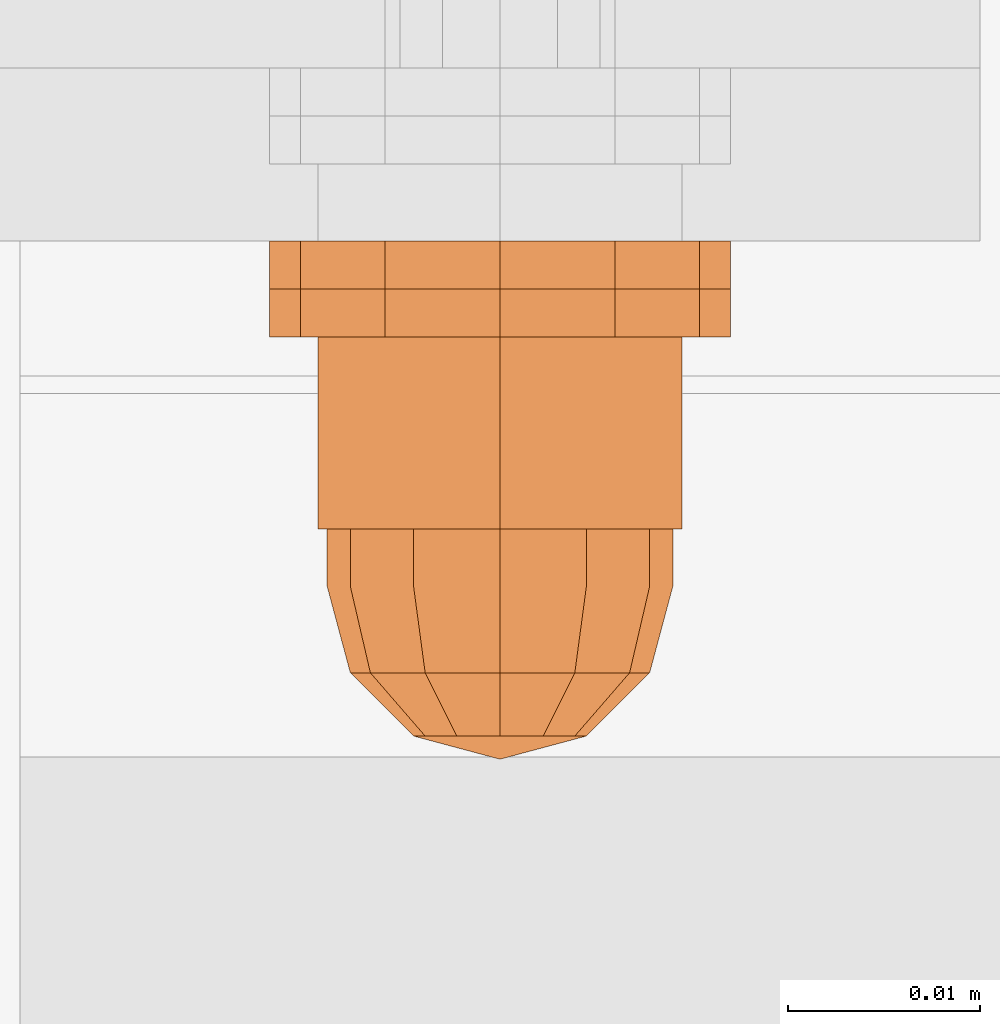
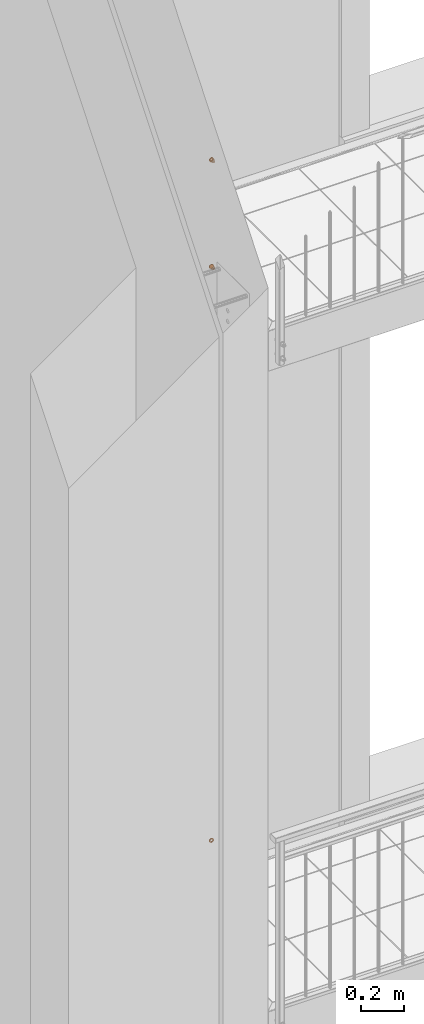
# One storey, part 142 of 162: 8 proxies.
"""IFC2X3 building model written with IfcOpenShell, lengths in millimetres."""

from ifc_helpers import new_model, entity, si_unit, converted_unit, origin_with_axes, place, context, project, spatial, faceted_brep, material, element, save


model = new_model("IFC2X3")

# Units and contexts
model_context = context("Model", 3, precision=1e-09, world=origin_with_axes())
ifc_project = project(units=[si_unit("LENGTHUNIT", "METRE", prefix="MILLI"), si_unit("AREAUNIT", "SQUARE_METRE"), si_unit("VOLUMEUNIT", "CUBIC_METRE"), converted_unit("PLANEANGLEUNIT", "DEGREE", entity("IfcPlaneAngleMeasure", 0.01745329), si_unit("PLANEANGLEUNIT", "RADIAN"), dimensions=[0, 0, 0, 0, 0, 0, 0])], contexts=[model_context])

# Site, building, storey
site_placement = place(None, origin_with_axes())
site = spatial("IfcSite", under=ifc_project, at=site_placement, Name="Hermannstra?e 1a, 60318 Frankfurt", CompositionType="ELEMENT")
building_placement = place(site_placement, origin_with_axes())
building = spatial("IfcBuilding", under=site, at=building_placement, Name="Struktur 1", CompositionType="ELEMENT")
storey_placement = place(building_placement, origin_with_axes())
storey = spatial("IfcBuildingStorey", under=building, at=storey_placement, Name="Default Storey", CompositionType="ELEMENT", Elevation=0.0)

# Proxies
ifc_material_1 = material(Name="Kunststoff")
proxy_1_placement = place(None, origin_with_axes())
element("IfcBuildingElementProxy", 1, at=proxy_1_placement, inside=storey, material=ifc_material_1, ObjectType="-", context=model_context, shape_type="Brep", body=[
    faceted_brep([(2938.700962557, 2708.108666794, 7899.0), (2938.700962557, 2710.608666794, 7899.0), (2940.308657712, 2710.608666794, 7905.0), (2940.308657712, 2708.108666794, 7905.0), (2934.308657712, 2710.608666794, 7894.607695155), (2928.308657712, 2710.608666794, 7893.0), (2922.308657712, 2710.608666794, 7894.607695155), (2917.916352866, 2710.608666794, 7899.0), (2916.308657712, 2710.608666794, 7905.0), (2917.916352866, 2710.608666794, 7911.0), (2922.308657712, 2710.608666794, 7915.392304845), (2928.308657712, 2710.608666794, 7917.0), (2934.308657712, 2710.608666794, 7915.392304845), (2938.700962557, 2710.608666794, 7911.0), (2931.558657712, 2710.608666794, 7899.370834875), (2933.937822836, 2710.608666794, 7901.75), (2934.808657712, 2710.608666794, 7905.0), (2933.937822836, 2710.608666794, 7908.25), (2931.558657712, 2710.608666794, 7910.629165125), (2928.308657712, 2710.608666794, 7911.5), (2925.058657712, 2710.608666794, 7910.629165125), (2922.679492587, 2710.608666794, 7908.25), (2921.808657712, 2710.608666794, 7905.0), (2922.679492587, 2710.608666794, 7901.75), (2925.058657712, 2710.608666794, 7899.370834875), (2928.308657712, 2710.608666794, 7898.5), (2934.808657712, 2708.108666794, 7905.0), (2933.937822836, 2708.108666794, 7901.75), (2934.308657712, 2708.108666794, 7894.607695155), (2938.700962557, 2708.108666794, 7911.0), (2934.308657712, 2708.108666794, 7915.392304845), (2928.308657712, 2708.108666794, 7917.0), (2922.308657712, 2708.108666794, 7915.392304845), (2917.916352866, 2708.108666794, 7911.0), (2916.308657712, 2708.108666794, 7905.0), (2917.916352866, 2708.108666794, 7899.0), (2922.308657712, 2708.108666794, 7894.607695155), (2928.308657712, 2708.108666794, 7893.0), (2931.558657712, 2708.108666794, 7899.370834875), (2928.308657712, 2708.108666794, 7898.5), (2925.058657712, 2708.108666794, 7899.370834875), (2922.679492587, 2708.108666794, 7901.75), (2921.808657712, 2708.108666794, 7905.0), (2922.679492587, 2708.108666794, 7908.25), (2925.058657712, 2708.108666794, 7910.629165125), (2928.308657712, 2708.108666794, 7911.5), (2931.558657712, 2708.108666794, 7910.629165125), (2933.937822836, 2708.108666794, 7908.25)], [[[0, 1, 2, 3]], [[1, 4, 5, 6, 7, 8, 9, 10, 11, 12, 13, 2], [14, 15, 16, 17, 18, 19, 20, 21, 22, 23, 24, 25]], [[26, 16, 15, 27]], [[28, 0, 3, 29, 30, 31, 32, 33, 34, 35, 36, 37], [26, 27, 38, 39, 40, 41, 42, 43, 44, 45, 46, 47]], [[1, 0, 28, 4]], [[16, 26, 47, 17]], [[3, 2, 13, 29]], [[27, 15, 14, 38]], [[4, 28, 37, 5]], [[17, 47, 46, 18]], [[29, 13, 12, 30]], [[38, 14, 25, 39]], [[18, 46, 45, 19]], [[5, 37, 36, 6]], [[39, 25, 24, 40]], [[30, 12, 11, 31]], [[19, 45, 44, 20]], [[6, 36, 35, 7]], [[40, 24, 23, 41]], [[31, 11, 10, 32]], [[20, 44, 43, 21]], [[7, 35, 34, 8]], [[41, 23, 22, 42]], [[32, 10, 9, 33]], [[21, 43, 42, 22]], [[8, 34, 33, 9]]]),
])
ifc_material_2 = material(Name="A4")
proxy_2_placement = place(None, origin_with_axes())
element("IfcBuildingElementProxy", 2, at=proxy_2_placement, inside=storey, material=ifc_material_2, ObjectType="-", context=model_context, shape_type="Brep", body=[
    faceted_brep([(2917.916352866, 2705.608666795, 7899.0), (2917.916352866, 2708.108666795, 7899.0), (2922.308657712, 2708.108666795, 7894.607695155), (2922.308657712, 2705.608666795, 7894.607695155), (2928.308657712, 2705.608666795, 7893.0), (2934.308657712, 2705.608666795, 7894.607695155), (2938.700962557, 2705.608666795, 7899.0), (2940.308657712, 2705.608666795, 7905.0), (2938.700962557, 2705.608666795, 7911.0), (2934.308657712, 2705.608666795, 7915.392304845), (2928.308657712, 2705.608666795, 7917.0), (2922.308657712, 2705.608666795, 7915.392304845), (2917.916352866, 2705.608666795, 7911.0), (2916.308657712, 2705.608666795, 7905.0), (2931.558657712, 2705.608666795, 7899.370834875), (2928.308657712, 2705.608666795, 7898.5), (2925.058657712, 2705.608666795, 7899.370834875), (2922.679492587, 2705.608666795, 7901.75), (2921.808657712, 2705.608666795, 7905.0), (2922.679492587, 2705.608666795, 7908.25), (2925.058657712, 2705.608666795, 7910.629165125), (2928.308657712, 2705.608666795, 7911.5), (2931.558657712, 2705.608666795, 7910.629165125), (2933.937822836, 2705.608666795, 7908.25), (2934.808657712, 2705.608666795, 7905.0), (2933.937822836, 2705.608666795, 7901.75), (2916.308657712, 2708.108666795, 7905.0), (2917.916352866, 2708.108666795, 7911.0), (2922.308657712, 2708.108666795, 7915.392304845), (2928.308657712, 2708.108666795, 7917.0), (2934.308657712, 2708.108666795, 7915.392304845), (2938.700962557, 2708.108666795, 7911.0), (2940.308657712, 2708.108666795, 7905.0), (2938.700962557, 2708.108666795, 7899.0), (2934.308657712, 2708.108666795, 7894.607695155), (2928.308657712, 2708.108666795, 7893.0), (2921.808657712, 2708.108666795, 7905.0), (2922.679492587, 2708.108666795, 7901.75), (2925.058657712, 2708.108666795, 7899.370834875), (2928.308657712, 2708.108666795, 7898.5), (2931.558657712, 2708.108666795, 7899.370834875), (2933.937822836, 2708.108666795, 7901.75), (2934.808657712, 2708.108666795, 7905.0), (2933.937822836, 2708.108666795, 7908.25), (2931.558657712, 2708.108666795, 7910.629165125), (2928.308657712, 2708.108666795, 7911.5), (2925.058657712, 2708.108666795, 7910.629165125), (2922.679492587, 2708.108666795, 7908.25)], [[[0, 1, 2, 3]], [[3, 4, 5, 6, 7, 8, 9, 10, 11, 12, 13, 0], [14, 15, 16, 17, 18, 19, 20, 21, 22, 23, 24, 25]], [[1, 26, 27, 28, 29, 30, 31, 32, 33, 34, 35, 2], [36, 37, 38, 39, 40, 41, 42, 43, 44, 45, 46, 47]], [[37, 17, 16, 38]], [[1, 0, 13, 26]], [[17, 37, 36, 18]], [[38, 16, 15, 39]], [[3, 2, 35, 4]], [[26, 13, 12, 27]], [[18, 36, 47, 19]], [[39, 15, 14, 40]], [[4, 35, 34, 5]], [[27, 12, 11, 28]], [[19, 47, 46, 20]], [[40, 14, 25, 41]], [[5, 34, 33, 6]], [[24, 42, 41, 25]], [[28, 11, 10, 29]], [[20, 46, 45, 21]], [[23, 43, 42, 24]], [[6, 33, 32, 7]], [[44, 22, 21, 45]], [[43, 23, 22, 44]], [[29, 10, 9, 30]], [[7, 32, 31, 8]], [[30, 9, 8, 31]]]),
])
proxy_3_placement = place(None, origin_with_axes())
element("IfcBuildingElementProxy", 3, at=proxy_3_placement, inside=storey, material=ifc_material_2, ObjectType="-", context=model_context, shape_type="Brep", body=[
    faceted_brep([(2934.308657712, 2705.608666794, 7905.0), (2934.308657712, 2695.608666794, 7905.0), (2933.504810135, 2695.608666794, 7908.0), (2933.504810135, 2705.608666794, 7908.0), (2931.308657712, 2695.608666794, 7910.196152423), (2931.308657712, 2705.608666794, 7910.196152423), (2933.504810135, 2705.608666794, 7902.0), (2933.504810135, 2695.608666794, 7902.0), (2937.788526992, 2705.608666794, 7899.526794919), (2928.308657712, 2705.608666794, 7894.053589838), (2918.828788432, 2705.608666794, 7899.526794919), (2918.828788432, 2705.608666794, 7910.473205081), (2928.308657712, 2705.608666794, 7915.946410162), (2937.788526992, 2705.608666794, 7910.473205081), (2931.308657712, 2705.608666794, 7899.803847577), (2928.308657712, 2705.608666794, 7911.0), (2925.308657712, 2705.608666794, 7910.196152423), (2923.112505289, 2705.608666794, 7908.0), (2922.308657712, 2705.608666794, 7905.0), (2923.112505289, 2705.608666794, 7902.0), (2925.308657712, 2705.608666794, 7899.803847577), (2928.308657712, 2705.608666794, 7899.0), (2928.308657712, 2695.608666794, 7894.053589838), (2937.788526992, 2695.608666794, 7899.526794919), (2937.788526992, 2695.608666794, 7910.473205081), (2928.308657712, 2695.608666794, 7915.946410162), (2918.828788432, 2695.608666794, 7910.473205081), (2918.828788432, 2695.608666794, 7899.526794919), (2931.308657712, 2695.608666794, 7899.803847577), (2928.308657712, 2695.608666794, 7899.0), (2925.308657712, 2695.608666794, 7899.803847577), (2923.112505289, 2695.608666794, 7902.0), (2922.308657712, 2695.608666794, 7905.0), (2923.112505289, 2695.608666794, 7908.0), (2925.308657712, 2695.608666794, 7910.196152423), (2928.308657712, 2695.608666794, 7911.0)], [[[0, 1, 2, 3]], [[3, 2, 4, 5]], [[1, 0, 6, 7]], [[8, 9, 10, 11, 12, 13], [14, 6, 0, 3, 5, 15, 16, 17, 18, 19, 20, 21]], [[22, 23, 24, 25, 26, 27], [1, 7, 28, 29, 30, 31, 32, 33, 34, 35, 4, 2]], [[7, 6, 14, 28]], [[24, 23, 8, 13]], [[5, 4, 35, 15]], [[13, 12, 25, 24]], [[28, 14, 21, 29]], [[23, 22, 9, 8]], [[15, 35, 34, 16]], [[12, 11, 26, 25]], [[29, 21, 20, 30]], [[22, 27, 10, 9]], [[16, 34, 33, 17]], [[27, 26, 11, 10]], [[30, 20, 19, 31]], [[17, 33, 32, 18]], [[31, 19, 18, 32]]]),
    faceted_brep([(2928.308657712, 2695.608666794, 7896.0), (2928.308657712, 2692.608666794, 7896.0), (2923.808657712, 2692.608666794, 7897.205771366), (2923.808657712, 2695.608666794, 7897.205771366), (2932.808657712, 2695.608666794, 7897.205771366), (2932.808657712, 2692.608666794, 7897.205771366), (2936.102886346, 2692.608666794, 7909.5), (2932.808657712, 2692.608666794, 7912.794228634), (2928.308657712, 2692.608666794, 7914.0), (2923.808657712, 2692.608666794, 7912.794228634), (2920.514429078, 2692.608666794, 7909.5), (2919.308657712, 2692.608666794, 7905.0), (2920.514429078, 2692.608666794, 7900.5), (2936.102886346, 2692.608666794, 7900.5), (2937.308657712, 2692.608666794, 7905.0), (2920.514429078, 2695.608666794, 7909.5), (2923.808657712, 2695.608666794, 7912.794228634), (2928.308657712, 2695.608666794, 7914.0), (2932.808657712, 2695.608666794, 7912.794228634), (2936.102886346, 2695.608666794, 7909.5), (2937.308657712, 2695.608666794, 7905.0), (2936.102886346, 2695.608666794, 7900.5), (2920.514429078, 2695.608666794, 7900.5), (2919.308657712, 2695.608666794, 7905.0)], [[[0, 1, 2, 3]], [[1, 0, 4, 5]], [[6, 7, 8, 9, 10, 11, 12, 2, 1, 5, 13, 14]], [[15, 16, 17, 18, 19, 20, 21, 4, 0, 3, 22, 23]], [[3, 2, 12, 22]], [[5, 4, 21, 13]], [[22, 12, 11, 23]], [[13, 21, 20, 14]], [[7, 18, 17, 8]], [[19, 6, 14, 20]], [[18, 7, 6, 19]], [[23, 11, 10, 15]], [[8, 17, 16, 9]], [[15, 10, 9, 16]]]),
    faceted_brep([(2936.102886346, 2692.608666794, 7900.5), (2935.058657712, 2688.108666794, 7901.102885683), (2932.205772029, 2688.108666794, 7898.25), (2932.808657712, 2692.608666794, 7897.205771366), (2920.514429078, 2692.608666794, 7909.5), (2923.808657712, 2692.608666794, 7912.794228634), (2928.308657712, 2692.608666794, 7914.0), (2932.808657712, 2692.608666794, 7912.794228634), (2936.102886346, 2692.608666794, 7909.5), (2937.308657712, 2692.608666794, 7905.0), (2928.308657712, 2692.608666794, 7896.0), (2923.808657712, 2692.608666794, 7897.205771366), (2920.514429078, 2692.608666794, 7900.5), (2919.308657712, 2692.608666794, 7905.0), (2928.308657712, 2688.108666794, 7897.205771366), (2936.102886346, 2688.108666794, 7905.0), (2932.808657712, 2684.81443816, 7905.0), (2932.205772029, 2684.81443816, 7902.75), (2924.411543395, 2688.108666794, 7898.25), (2930.558657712, 2684.81443816, 7901.102885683), (2935.058657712, 2688.108666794, 7908.897114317), (2932.205772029, 2684.81443816, 7907.25), (2928.308657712, 2684.81443816, 7900.5), (2928.308657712, 2683.608666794, 7905.0), (2932.205772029, 2688.108666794, 7911.75), (2930.558657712, 2684.81443816, 7908.897114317), (2928.308657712, 2688.108666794, 7912.794228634), (2921.558657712, 2688.108666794, 7901.102885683), (2926.058657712, 2684.81443816, 7901.102885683), (2928.308657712, 2684.81443816, 7909.5), (2924.411543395, 2688.108666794, 7911.75), (2926.058657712, 2684.81443816, 7908.897114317), (2920.514429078, 2688.108666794, 7905.0), (2924.411543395, 2684.81443816, 7902.75), (2921.558657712, 2688.108666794, 7908.897114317), (2924.411543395, 2684.81443816, 7907.25), (2923.808657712, 2684.81443816, 7905.0)], [[[0, 1, 2, 3]], [[4, 5, 6, 7, 8, 9, 0, 3, 10, 11, 12, 13]], [[3, 2, 14, 10]], [[15, 16, 17, 1]], [[1, 0, 9, 15]], [[10, 14, 18, 11]], [[1, 17, 19, 2]], [[16, 15, 20, 21]], [[2, 19, 22, 14]], [[23, 17, 16]], [[24, 25, 21, 20]], [[23, 16, 21]], [[24, 7, 6, 26]], [[20, 8, 7, 24]], [[15, 9, 8, 20]], [[11, 18, 27, 12]], [[14, 22, 28, 18]], [[23, 19, 17]], [[26, 29, 25, 24]], [[23, 21, 25]], [[23, 22, 19]], [[26, 6, 5, 30]], [[29, 26, 30, 31]], [[23, 25, 29]], [[12, 27, 32, 13]], [[18, 28, 33, 27]], [[23, 28, 22]], [[23, 29, 31]], [[23, 33, 28]], [[30, 5, 4, 34]], [[31, 30, 34, 35]], [[23, 31, 35]], [[13, 32, 34, 4]], [[27, 33, 36, 32]], [[23, 36, 33]], [[23, 35, 36]], [[35, 34, 32, 36]]]),
])
proxy_4_placement = place(None, origin_with_axes())
element("IfcBuildingElementProxy", 4, at=proxy_4_placement, inside=storey, material=ifc_material_2, ObjectType="-", context=model_context, shape_type="Brep", body=[
    faceted_brep([(2934.308657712, 2695.608666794, 7305.0), (2934.308657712, 2705.608666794, 7305.0), (2933.504810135, 2705.608666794, 7302.0), (2933.504810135, 2695.608666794, 7302.0), (2931.308657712, 2705.608666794, 7299.803847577), (2931.308657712, 2695.608666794, 7299.803847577), (2933.504810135, 2695.608666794, 7308.0), (2933.504810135, 2705.608666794, 7308.0), (2937.788526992, 2705.608666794, 7310.473205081), (2937.788526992, 2705.608666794, 7299.526794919), (2928.308657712, 2705.608666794, 7294.053589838), (2918.828788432, 2705.608666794, 7299.526794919), (2918.828788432, 2705.608666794, 7310.473205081), (2928.308657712, 2705.608666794, 7315.946410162), (2931.308657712, 2705.608666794, 7310.196152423), (2928.308657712, 2705.608666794, 7311.0), (2925.308657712, 2705.608666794, 7310.196152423), (2923.112505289, 2705.608666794, 7308.0), (2922.308657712, 2705.608666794, 7305.0), (2923.112505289, 2705.608666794, 7302.0), (2925.308657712, 2705.608666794, 7299.803847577), (2928.308657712, 2705.608666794, 7299.0), (2937.788526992, 2695.608666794, 7310.473205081), (2928.308657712, 2695.608666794, 7315.946410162), (2918.828788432, 2695.608666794, 7310.473205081), (2918.828788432, 2695.608666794, 7299.526794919), (2928.308657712, 2695.608666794, 7294.053589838), (2937.788526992, 2695.608666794, 7299.526794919), (2931.308657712, 2695.608666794, 7310.196152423), (2928.308657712, 2695.608666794, 7299.0), (2928.308657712, 2695.608666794, 7311.0), (2925.308657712, 2695.608666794, 7299.803847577), (2925.308657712, 2695.608666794, 7310.196152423), (2923.112505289, 2695.608666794, 7302.0), (2923.112505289, 2695.608666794, 7308.0), (2922.308657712, 2695.608666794, 7305.0)], [[[0, 1, 2, 3]], [[3, 2, 4, 5]], [[1, 0, 6, 7]], [[8, 9, 10, 11, 12, 13], [7, 14, 15, 16, 17, 18, 19, 20, 21, 4, 2, 1]], [[22, 23, 24, 25, 26, 27]], [[7, 6, 28, 14]], [[22, 27, 9, 8]], [[5, 4, 21, 29]], [[10, 9, 27, 26]], [[14, 28, 30, 15]], [[23, 22, 8, 13]], [[29, 21, 20, 31]], [[11, 10, 26, 25]], [[15, 30, 32, 16]], [[24, 23, 13, 12]], [[31, 20, 19, 33]], [[25, 24, 12, 11]], [[16, 32, 34, 17]], [[33, 19, 18, 35]], [[17, 34, 35, 18]]]),
    faceted_brep([(2928.308657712, 2692.608666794, 7314.0), (2928.308657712, 2695.608666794, 7314.0), (2923.808657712, 2695.608666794, 7312.794228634), (2923.808657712, 2692.608666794, 7312.794228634), (2932.808657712, 2692.608666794, 7312.794228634), (2932.808657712, 2695.608666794, 7312.794228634), (2932.808657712, 2692.608666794, 7297.205771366), (2936.102886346, 2692.608666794, 7300.5), (2937.308657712, 2692.608666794, 7305.0), (2936.102886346, 2692.608666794, 7309.5), (2920.514429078, 2692.608666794, 7309.5), (2919.308657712, 2692.608666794, 7305.0), (2920.514429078, 2692.608666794, 7300.5), (2923.808657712, 2692.608666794, 7297.205771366), (2928.308657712, 2692.608666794, 7296.0), (2923.808657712, 2695.608666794, 7297.205771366), (2920.514429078, 2695.608666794, 7300.5), (2919.308657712, 2695.608666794, 7305.0), (2920.514429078, 2695.608666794, 7309.5), (2936.102886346, 2695.608666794, 7309.5), (2937.308657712, 2695.608666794, 7305.0), (2936.102886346, 2695.608666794, 7300.5), (2932.808657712, 2695.608666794, 7297.205771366), (2928.308657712, 2695.608666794, 7296.0)], [[[0, 1, 2, 3]], [[1, 0, 4, 5]], [[6, 7, 8, 9, 4, 0, 3, 10, 11, 12, 13, 14]], [[15, 16, 17, 18, 2, 1, 5, 19, 20, 21, 22, 23]], [[3, 2, 18, 10]], [[5, 4, 9, 19]], [[10, 18, 17, 11]], [[19, 9, 8, 20]], [[22, 6, 14, 23]], [[7, 21, 20, 8]], [[6, 22, 21, 7]], [[11, 17, 16, 12]], [[23, 14, 13, 15]], [[12, 16, 15, 13]]]),
    faceted_brep([(2935.058657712, 2688.108666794, 7308.897114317), (2936.102886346, 2692.608666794, 7309.5), (2932.808657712, 2692.608666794, 7312.794228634), (2932.205772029, 2688.108666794, 7311.75), (2923.808657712, 2692.608666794, 7297.205771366), (2920.514429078, 2692.608666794, 7300.5), (2919.308657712, 2692.608666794, 7305.0), (2920.514429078, 2692.608666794, 7309.5), (2923.808657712, 2692.608666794, 7312.794228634), (2928.308657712, 2692.608666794, 7314.0), (2937.308657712, 2692.608666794, 7305.0), (2936.102886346, 2692.608666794, 7300.5), (2932.808657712, 2692.608666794, 7297.205771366), (2928.308657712, 2692.608666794, 7296.0), (2928.308657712, 2688.108666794, 7312.794228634), (2932.808657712, 2684.81443816, 7305.0), (2936.102886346, 2688.108666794, 7305.0), (2932.205772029, 2684.81443816, 7307.25), (2924.411543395, 2688.108666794, 7311.75), (2930.558657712, 2684.81443816, 7308.897114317), (2932.205772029, 2684.81443816, 7302.75), (2935.058657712, 2688.108666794, 7301.102885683), (2928.308657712, 2684.81443816, 7309.5), (2928.308657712, 2683.608666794, 7305.0), (2930.558657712, 2684.81443816, 7301.102885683), (2932.205772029, 2688.108666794, 7298.25), (2928.308657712, 2688.108666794, 7297.205771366), (2921.558657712, 2688.108666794, 7308.897114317), (2926.058657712, 2684.81443816, 7308.897114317), (2928.308657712, 2684.81443816, 7300.5), (2924.411543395, 2688.108666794, 7298.25), (2926.058657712, 2684.81443816, 7301.102885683), (2920.514429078, 2688.108666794, 7305.0), (2924.411543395, 2684.81443816, 7307.25), (2921.558657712, 2688.108666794, 7301.102885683), (2924.411543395, 2684.81443816, 7302.75), (2923.808657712, 2684.81443816, 7305.0)], [[[0, 1, 2, 3]], [[4, 5, 6, 7, 8, 9, 2, 1, 10, 11, 12, 13]], [[3, 2, 9, 14]], [[15, 16, 0, 17]], [[1, 0, 16, 10]], [[14, 9, 8, 18]], [[17, 0, 3, 19]], [[16, 15, 20, 21]], [[19, 3, 14, 22]], [[17, 23, 15]], [[24, 25, 21, 20]], [[15, 23, 20]], [[12, 25, 26, 13]], [[11, 21, 25, 12]], [[10, 16, 21, 11]], [[18, 8, 7, 27]], [[22, 14, 18, 28]], [[19, 23, 17]], [[29, 26, 25, 24]], [[20, 23, 24]], [[22, 23, 19]], [[13, 26, 30, 4]], [[26, 29, 31, 30]], [[24, 23, 29]], [[27, 7, 6, 32]], [[28, 18, 27, 33]], [[28, 23, 22]], [[29, 23, 31]], [[33, 23, 28]], [[4, 30, 34, 5]], [[30, 31, 35, 34]], [[31, 23, 35]], [[32, 6, 5, 34]], [[33, 27, 32, 36]], [[36, 23, 33]], [[35, 23, 36]], [[34, 35, 36, 32]]]),
])
proxy_5_placement = place(None, origin_with_axes())
element("IfcBuildingElementProxy", 5, at=proxy_5_placement, inside=storey, material=ifc_material_2, ObjectType="-", context=model_context, shape_type="Brep", body=[
    faceted_brep([(2917.916352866, 2708.108666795, 7311.0), (2917.916352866, 2705.608666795, 7311.0), (2922.308657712, 2705.608666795, 7315.392304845), (2922.308657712, 2708.108666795, 7315.392304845), (2916.308657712, 2705.608666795, 7305.0), (2917.916352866, 2705.608666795, 7299.0), (2922.308657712, 2705.608666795, 7294.607695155), (2928.308657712, 2705.608666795, 7293.0), (2934.308657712, 2705.608666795, 7294.607695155), (2938.700962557, 2705.608666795, 7299.0), (2940.308657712, 2705.608666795, 7305.0), (2938.700962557, 2705.608666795, 7311.0), (2934.308657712, 2705.608666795, 7315.392304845), (2928.308657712, 2705.608666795, 7317.0), (2928.308657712, 2705.608666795, 7311.5), (2931.558657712, 2705.608666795, 7310.629165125), (2933.937822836, 2705.608666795, 7308.25), (2934.808657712, 2705.608666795, 7305.0), (2933.937822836, 2705.608666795, 7301.75), (2931.558657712, 2705.608666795, 7299.370834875), (2928.308657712, 2705.608666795, 7298.5), (2925.058657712, 2705.608666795, 7299.370834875), (2922.679492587, 2705.608666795, 7301.75), (2921.808657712, 2705.608666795, 7305.0), (2922.679492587, 2705.608666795, 7308.25), (2925.058657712, 2705.608666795, 7310.629165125), (2922.679492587, 2708.108666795, 7308.25), (2921.808657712, 2708.108666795, 7305.0), (2922.679492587, 2708.108666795, 7301.75), (2925.058657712, 2708.108666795, 7299.370834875), (2928.308657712, 2708.108666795, 7298.5), (2931.558657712, 2708.108666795, 7299.370834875), (2933.937822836, 2708.108666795, 7301.75), (2934.808657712, 2708.108666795, 7305.0), (2933.937822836, 2708.108666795, 7308.25), (2931.558657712, 2708.108666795, 7310.629165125), (2928.308657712, 2708.108666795, 7311.5), (2925.058657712, 2708.108666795, 7310.629165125), (2916.308657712, 2708.108666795, 7305.0), (2928.308657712, 2708.108666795, 7317.0), (2917.916352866, 2708.108666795, 7299.0), (2934.308657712, 2708.108666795, 7315.392304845), (2922.308657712, 2708.108666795, 7294.607695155), (2938.700962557, 2708.108666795, 7311.0), (2928.308657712, 2708.108666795, 7293.0), (2940.308657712, 2708.108666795, 7305.0), (2934.308657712, 2708.108666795, 7294.607695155), (2938.700962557, 2708.108666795, 7299.0)], [[[0, 1, 2, 3]], [[2, 1, 4, 5, 6, 7, 8, 9, 10, 11, 12, 13], [14, 15, 16, 17, 18, 19, 20, 21, 22, 23, 24, 25]], [[26, 27, 28, 29, 30, 31, 32, 33, 34, 35, 36, 37]], [[24, 26, 37, 25]], [[1, 0, 38, 4]], [[26, 24, 23, 27]], [[25, 37, 36, 14]], [[3, 2, 13, 39]], [[4, 38, 40, 5]], [[27, 23, 22, 28]], [[14, 36, 35, 15]], [[39, 13, 12, 41]], [[5, 40, 42, 6]], [[28, 22, 21, 29]], [[15, 35, 34, 16]], [[41, 12, 11, 43]], [[33, 17, 16, 34]], [[6, 42, 44, 7]], [[29, 21, 20, 30]], [[32, 18, 17, 33]], [[43, 11, 10, 45]], [[19, 31, 30, 20]], [[18, 32, 31, 19]], [[7, 44, 46, 8]], [[45, 10, 9, 47]], [[8, 46, 47, 9]]]),
])
proxy_6_placement = place(None, origin_with_axes())
element("IfcBuildingElementProxy", 6, at=proxy_6_placement, inside=storey, material=ifc_material_1, ObjectType="-", context=model_context, shape_type="Brep", body=[
    faceted_brep([(2938.700962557, 2710.608666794, 7311.0), (2938.700962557, 2708.108666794, 7311.0), (2940.308657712, 2708.108666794, 7305.0), (2940.308657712, 2710.608666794, 7305.0), (2933.937822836, 2710.608666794, 7308.25), (2931.558657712, 2710.608666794, 7310.629165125), (2928.308657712, 2710.608666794, 7311.5), (2925.058657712, 2710.608666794, 7310.629165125), (2922.679492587, 2710.608666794, 7308.25), (2921.808657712, 2710.608666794, 7305.0), (2922.679492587, 2710.608666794, 7301.75), (2925.058657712, 2710.608666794, 7299.370834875), (2928.308657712, 2710.608666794, 7298.5), (2931.558657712, 2710.608666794, 7299.370834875), (2933.937822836, 2710.608666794, 7301.75), (2934.808657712, 2710.608666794, 7305.0), (2934.808657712, 2708.108666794, 7305.0), (2933.937822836, 2708.108666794, 7308.25), (2934.308657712, 2708.108666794, 7315.392304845), (2928.308657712, 2708.108666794, 7317.0), (2922.308657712, 2708.108666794, 7315.392304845), (2917.916352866, 2708.108666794, 7311.0), (2916.308657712, 2708.108666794, 7305.0), (2917.916352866, 2708.108666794, 7299.0), (2922.308657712, 2708.108666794, 7294.607695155), (2928.308657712, 2708.108666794, 7293.0), (2934.308657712, 2708.108666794, 7294.607695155), (2938.700962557, 2708.108666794, 7299.0), (2934.308657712, 2710.608666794, 7315.392304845), (2933.937822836, 2708.108666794, 7301.75), (2938.700962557, 2710.608666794, 7299.0), (2931.558657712, 2708.108666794, 7310.629165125), (2928.308657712, 2710.608666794, 7317.0), (2931.558657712, 2708.108666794, 7299.370834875), (2934.308657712, 2710.608666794, 7294.607695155), (2928.308657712, 2708.108666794, 7311.5), (2928.308657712, 2708.108666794, 7298.5), (2922.308657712, 2710.608666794, 7315.392304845), (2925.058657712, 2708.108666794, 7310.629165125), (2928.308657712, 2710.608666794, 7293.0), (2925.058657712, 2708.108666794, 7299.370834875), (2917.916352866, 2710.608666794, 7311.0), (2922.679492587, 2708.108666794, 7308.25), (2922.308657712, 2710.608666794, 7294.607695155), (2922.679492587, 2708.108666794, 7301.75), (2916.308657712, 2710.608666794, 7305.0), (2921.808657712, 2708.108666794, 7305.0), (2917.916352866, 2710.608666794, 7299.0)], [[[0, 1, 2, 3]], [[4, 5, 6, 7, 8, 9, 10, 11, 12, 13, 14, 15]], [[15, 16, 17, 4]], [[1, 18, 19, 20, 21, 22, 23, 24, 25, 26, 27, 2]], [[1, 0, 28, 18]], [[16, 15, 14, 29]], [[3, 2, 27, 30]], [[4, 17, 31, 5]], [[18, 28, 32, 19]], [[29, 14, 13, 33]], [[30, 27, 26, 34]], [[5, 31, 35, 6]], [[33, 13, 12, 36]], [[19, 32, 37, 20]], [[6, 35, 38, 7]], [[34, 26, 25, 39]], [[36, 12, 11, 40]], [[20, 37, 41, 21]], [[7, 38, 42, 8]], [[39, 25, 24, 43]], [[40, 11, 10, 44]], [[21, 41, 45, 22]], [[8, 42, 46, 9]], [[43, 24, 23, 47]], [[44, 10, 9, 46]], [[22, 45, 47, 23]]]),
])
proxy_7_placement = place(None, origin_with_axes())
element("IfcBuildingElementProxy", 7, at=proxy_7_placement, inside=storey, material=ifc_material_1, ObjectType="-", context=model_context, shape_type="Brep", body=[
    faceted_brep([(2938.702376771, 2708.110081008, 4074.0), (2938.702376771, 2710.610081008, 4074.0), (2940.310071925, 2710.610081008, 4080.0), (2940.310071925, 2708.110081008, 4080.0), (2934.310071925, 2710.610081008, 4069.607695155), (2928.310071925, 2710.610081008, 4068.0), (2922.310071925, 2710.610081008, 4069.607695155), (2917.91776708, 2710.610081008, 4074.0), (2916.310071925, 2710.610081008, 4080.0), (2917.91776708, 2710.610081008, 4086.0), (2922.310071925, 2710.610081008, 4090.392304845), (2928.310071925, 2710.610081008, 4092.0), (2934.310071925, 2710.610081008, 4090.392304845), (2938.702376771, 2710.610081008, 4086.0), (2931.560071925, 2710.610081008, 4074.370834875), (2933.93923705, 2710.610081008, 4076.75), (2934.810071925, 2710.610081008, 4080.0), (2933.93923705, 2710.610081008, 4083.25), (2931.560071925, 2710.610081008, 4085.629165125), (2928.310071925, 2710.610081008, 4086.5), (2925.060071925, 2710.610081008, 4085.629165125), (2922.680906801, 2710.610081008, 4083.25), (2921.810071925, 2710.610081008, 4080.0), (2922.680906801, 2710.610081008, 4076.75), (2925.060071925, 2710.610081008, 4074.370834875), (2928.310071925, 2710.610081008, 4073.5), (2934.810071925, 2708.110081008, 4080.0), (2933.93923705, 2708.110081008, 4076.75), (2934.310071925, 2708.110081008, 4069.607695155), (2938.702376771, 2708.110081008, 4086.0), (2934.310071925, 2708.110081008, 4090.392304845), (2928.310071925, 2708.110081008, 4092.0), (2922.310071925, 2708.110081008, 4090.392304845), (2917.91776708, 2708.110081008, 4086.0), (2916.310071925, 2708.110081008, 4080.0), (2917.91776708, 2708.110081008, 4074.0), (2922.310071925, 2708.110081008, 4069.607695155), (2928.310071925, 2708.110081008, 4068.0), (2931.560071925, 2708.110081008, 4074.370834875), (2928.310071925, 2708.110081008, 4073.5), (2925.060071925, 2708.110081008, 4074.370834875), (2922.680906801, 2708.110081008, 4076.75), (2921.810071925, 2708.110081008, 4080.0), (2922.680906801, 2708.110081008, 4083.25), (2925.060071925, 2708.110081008, 4085.629165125), (2928.310071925, 2708.110081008, 4086.5), (2931.560071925, 2708.110081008, 4085.629165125), (2933.93923705, 2708.110081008, 4083.25)], [[[0, 1, 2, 3]], [[1, 4, 5, 6, 7, 8, 9, 10, 11, 12, 13, 2], [14, 15, 16, 17, 18, 19, 20, 21, 22, 23, 24, 25]], [[26, 16, 15, 27]], [[28, 0, 3, 29, 30, 31, 32, 33, 34, 35, 36, 37], [26, 27, 38, 39, 40, 41, 42, 43, 44, 45, 46, 47]], [[1, 0, 28, 4]], [[16, 26, 47, 17]], [[3, 2, 13, 29]], [[27, 15, 14, 38]], [[4, 28, 37, 5]], [[17, 47, 46, 18]], [[29, 13, 12, 30]], [[38, 14, 25, 39]], [[18, 46, 45, 19]], [[5, 37, 36, 6]], [[39, 25, 24, 40]], [[30, 12, 11, 31]], [[19, 45, 44, 20]], [[6, 36, 35, 7]], [[40, 24, 23, 41]], [[31, 11, 10, 32]], [[20, 44, 43, 21]], [[7, 35, 34, 8]], [[41, 23, 22, 42]], [[32, 10, 9, 33]], [[21, 43, 42, 22]], [[8, 34, 33, 9]]]),
])
proxy_8_placement = place(None, origin_with_axes())
element("IfcBuildingElementProxy", 8, at=proxy_8_placement, inside=storey, material=ifc_material_2, ObjectType="-", context=model_context, shape_type="Brep", body=[
    faceted_brep([(2917.91776708, 2705.610081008, 4074.0), (2917.91776708, 2708.110081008, 4074.0), (2922.310071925, 2708.110081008, 4069.607695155), (2922.310071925, 2705.610081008, 4069.607695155), (2928.310071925, 2705.610081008, 4068.0), (2934.310071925, 2705.610081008, 4069.607695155), (2938.702376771, 2705.610081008, 4074.0), (2940.310071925, 2705.610081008, 4080.0), (2938.702376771, 2705.610081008, 4086.0), (2934.310071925, 2705.610081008, 4090.392304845), (2928.310071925, 2705.610081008, 4092.0), (2922.310071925, 2705.610081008, 4090.392304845), (2917.91776708, 2705.610081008, 4086.0), (2916.310071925, 2705.610081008, 4080.0), (2931.560071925, 2705.610081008, 4074.370834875), (2928.310071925, 2705.610081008, 4073.5), (2925.060071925, 2705.610081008, 4074.370834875), (2922.680906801, 2705.610081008, 4076.75), (2921.810071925, 2705.610081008, 4080.0), (2922.680906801, 2705.610081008, 4083.25), (2925.060071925, 2705.610081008, 4085.629165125), (2928.310071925, 2705.610081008, 4086.5), (2931.560071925, 2705.610081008, 4085.629165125), (2933.93923705, 2705.610081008, 4083.25), (2934.810071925, 2705.610081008, 4080.0), (2933.93923705, 2705.610081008, 4076.75), (2916.310071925, 2708.110081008, 4080.0), (2917.91776708, 2708.110081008, 4086.0), (2922.310071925, 2708.110081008, 4090.392304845), (2928.310071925, 2708.110081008, 4092.0), (2934.310071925, 2708.110081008, 4090.392304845), (2938.702376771, 2708.110081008, 4086.0), (2940.310071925, 2708.110081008, 4080.0), (2938.702376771, 2708.110081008, 4074.0), (2934.310071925, 2708.110081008, 4069.607695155), (2928.310071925, 2708.110081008, 4068.0), (2921.810071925, 2708.110081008, 4080.0), (2922.680906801, 2708.110081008, 4076.75), (2925.060071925, 2708.110081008, 4074.370834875), (2928.310071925, 2708.110081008, 4073.5), (2931.560071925, 2708.110081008, 4074.370834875), (2933.93923705, 2708.110081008, 4076.75), (2934.810071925, 2708.110081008, 4080.0), (2933.93923705, 2708.110081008, 4083.25), (2931.560071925, 2708.110081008, 4085.629165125), (2928.310071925, 2708.110081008, 4086.5), (2925.060071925, 2708.110081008, 4085.629165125), (2922.680906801, 2708.110081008, 4083.25)], [[[0, 1, 2, 3]], [[3, 4, 5, 6, 7, 8, 9, 10, 11, 12, 13, 0], [14, 15, 16, 17, 18, 19, 20, 21, 22, 23, 24, 25]], [[1, 26, 27, 28, 29, 30, 31, 32, 33, 34, 35, 2], [36, 37, 38, 39, 40, 41, 42, 43, 44, 45, 46, 47]], [[37, 17, 16, 38]], [[1, 0, 13, 26]], [[17, 37, 36, 18]], [[38, 16, 15, 39]], [[3, 2, 35, 4]], [[26, 13, 12, 27]], [[18, 36, 47, 19]], [[39, 15, 14, 40]], [[4, 35, 34, 5]], [[27, 12, 11, 28]], [[19, 47, 46, 20]], [[40, 14, 25, 41]], [[5, 34, 33, 6]], [[24, 42, 41, 25]], [[28, 11, 10, 29]], [[20, 46, 45, 21]], [[23, 43, 42, 24]], [[6, 33, 32, 7]], [[44, 22, 21, 45]], [[43, 23, 22, 44]], [[29, 10, 9, 30]], [[7, 32, 31, 8]], [[30, 9, 8, 31]]]),
])

save(model, "model.ifc")
